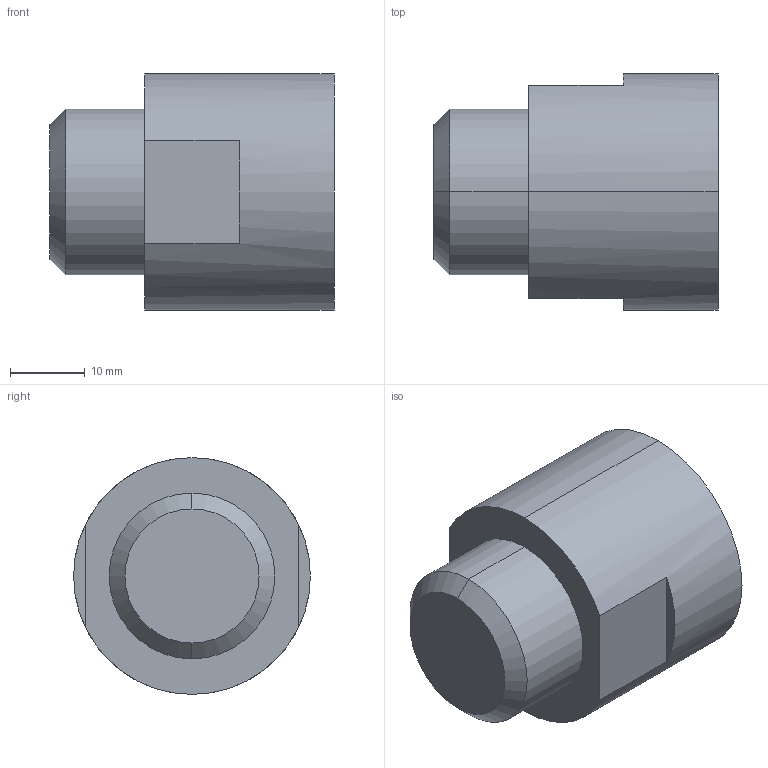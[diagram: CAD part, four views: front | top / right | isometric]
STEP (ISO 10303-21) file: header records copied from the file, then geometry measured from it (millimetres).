
FILE_DESCRIPTION (( 'STEP AP214' ), '1' );
FILE_NAME ('Fitting FNPT 08.STEP', '2012-09-26T20:41:22', ( '' ), ( '' ), 'SwSTEP 2.0', 'SolidWorks 2012', '' );
FILE_SCHEMA (( 'AUTOMOTIVE_DESIGN' ));
Length unit declared in the file: inch
Products named in the file (1): Fitting FNPT 08
Bounding box: 38.09 x 31.75 x 31.75 mm (x, y, z)
Volume: 19628.1 mm3; surface area: 5938.3 mm2
Topology: 1 solids, 1 shells, 18 faces, 38 edges, 24 vertices
Faces by surface type: plane 8, cone 6, cylinder 4
Entity records: 569 total; most frequent: DIRECTION 96, CARTESIAN_POINT 81, ORIENTED_EDGE 76, AXIS2_PLACEMENT_3D 39, EDGE_CURVE 38, VERTEX_POINT 24, CIRCLE 20, EDGE_LOOP 20
